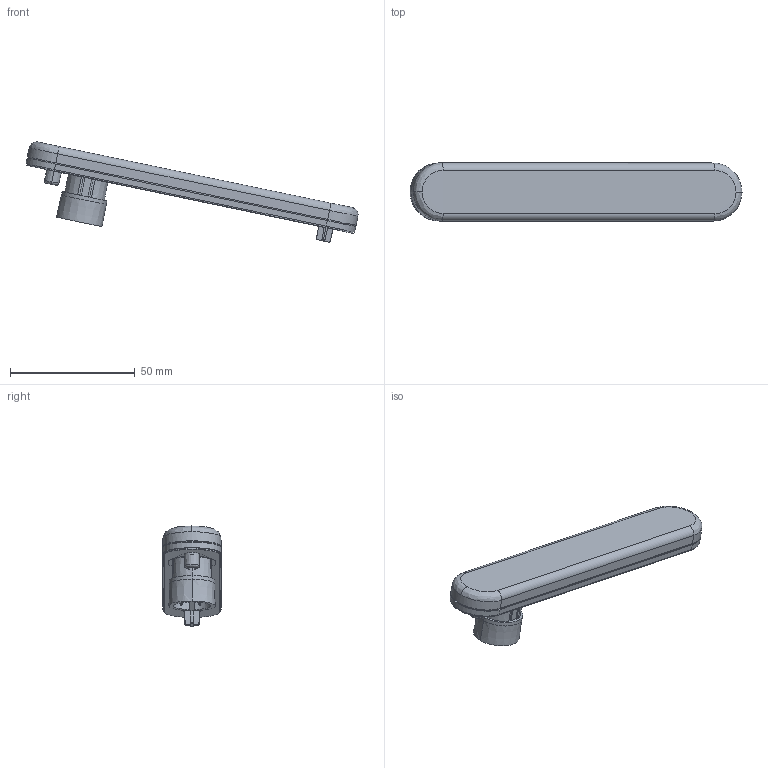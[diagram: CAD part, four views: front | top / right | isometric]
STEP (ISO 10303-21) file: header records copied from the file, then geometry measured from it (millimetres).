
FILE_DESCRIPTION(('CATIA V5 STEP Exchange','CAx-IF Rec.Pracs.--- Model Styling and Organization---1.5--- 2016-08-15','CAx-IF Rec.Pracs.---Supplemental Geometry---1.0---2011-11-01','CAx-IF Rec.Pracs.--- Composite Materials ---1.1---2010-07-15'),'2;1');
FILE_NAME('E:\tmp\ddx\2011204\3D_data_LED_position_lamp_009 226_2PF 009 226-09.stp','2022-01-18T07:36:04+00:00',('none'),('none'),'CATIA Version 5-6 Release 2020 SP3 HF9','CATIA V5 STEP AP214 Edition 3 v2','none');
FILE_SCHEMA(('AUTOMOTIVE_DESIGN { 1 0 10303 214 3 1 1 1 }'));
Length unit declared in the file: millimetre
Products named in the file (1): 10001171400_D10_001
Bounding box: 133.33 x 23.41 x 40.22 mm (x, y, z)
Surface area: 14728.7 mm2 (no closed solid volume)
Topology: 0 solids, 6 shells, 212 faces, 610 edges, 406 vertices
Faces by surface type: plane 120, bspline 38, cone 29, cylinder 25
Entity records: 8094 total; most frequent: CARTESIAN_POINT 3246, ORIENTED_EDGE 1094, DIRECTION 705, EDGE_CURVE 606, VERTEX_POINT 406, VECTOR 280, LINE 280, AXIS2_PLACEMENT_3D 251
